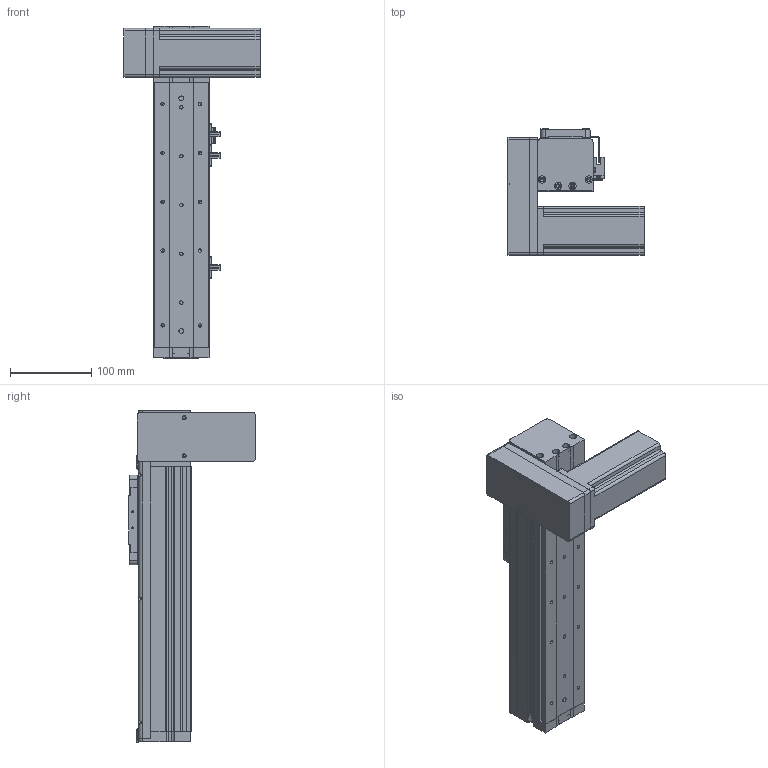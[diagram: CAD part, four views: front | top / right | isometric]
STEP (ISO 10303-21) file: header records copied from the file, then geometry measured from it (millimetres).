
FILE_DESCRIPTION (( 'STEP AP214' ), '1' );
FILE_NAME ('KSD68BS-S150-MRD-CR.STEP', '2019-11-08T02:26:39', ( '微软用户' ), ( '微软中国' ), 'SwSTEP 2.0', 'SolidWorks 2014', '' );
FILE_SCHEMA (( 'AUTOMOTIVE_DESIGN' ));
Length unit declared in the file: millimetre
Products named in the file (14): 68宽单导轨全封闭丝杆传动安装板1防护罩; KSD68BS 150行程侧板全封闭; 68宽单导轨全封闭同步带端板; 68单导轨全封闭同步带电机座右; 68单导轨全封闭同步带安装板; 悵誘欶奻狟殏; 68宽马达安装板连板上折同步带; 感应片68宽全封闭; U倰嫖萇EEㄜSX672; 台达ECMA－C20604AS伺服电机（400W); KSD68BS 150行程底板全封闭; KSD68BS-S150-MRD-CR; KSD68BS 150行程盖板全封闭; 68遵裔啣揤啣1
Assembly tree (17 placements, depth 2):
  KSD68BS-S150-MRD-CR
    KSD68BS 150行程底板全封闭
    台达ECMA－C20604AS伺服电机（400W)
    U倰嫖萇EEㄜSX672  x3
    感应片68宽全封闭
    68宽马达安装板连板上折同步带
    悵誘欶奻狟殏
    68单导轨全封闭同步带安装板
    68单导轨全封闭同步带电机座右
    68宽单导轨全封闭同步带端板
    KSD68BS 150行程侧板全封闭  x2
    68宽单导轨全封闭丝杆传动安装板1防护罩
    68遵裔啣揤啣1  x2
    KSD68BS 150行程盖板全封闭
Bounding box: 167.2 x 155.5 x 408.1 mm (x, y, z)
Volume: 1391777.2 mm3; surface area: 431993.6 mm2
Topology: 18 solids, 18 shells, 1376 faces, 3865 edges, 2485 vertices
Faces by surface type: plane 627, cylinder 617, cone 132
Entity records: 42364 total; most frequent: CARTESIAN_POINT 7103, DIRECTION 6429, ORIENTED_EDGE 6166, EDGE_CURVE 3083, AXIS2_PLACEMENT_3D 2281, VERTEX_POINT 2023, LINE 1867, VECTOR 1867
